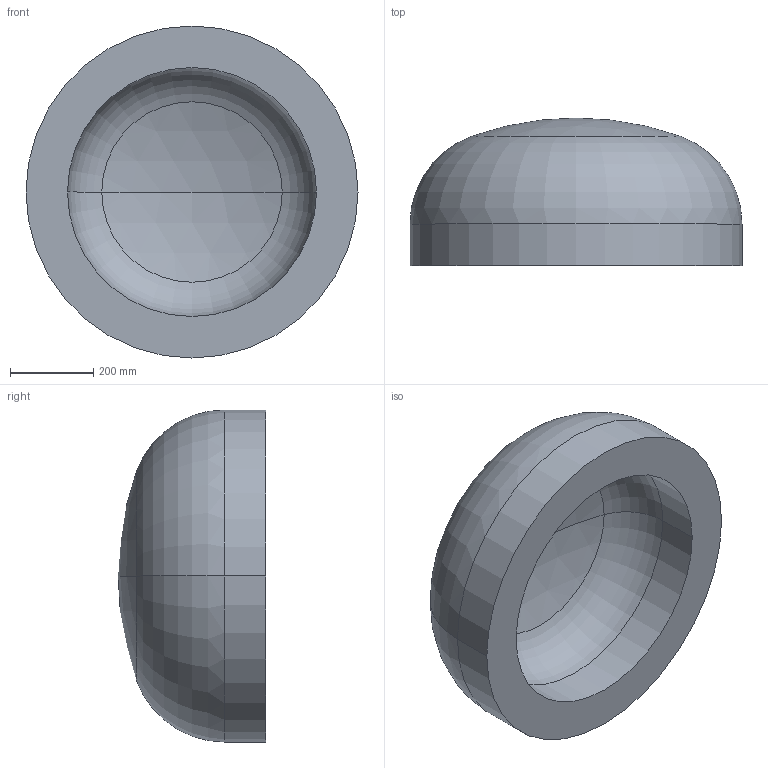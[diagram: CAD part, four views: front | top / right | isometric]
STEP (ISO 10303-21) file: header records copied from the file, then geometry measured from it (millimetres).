
FILE_DESCRIPTION (( 'STEP AP203' ), '1' );
FILE_NAME ('DIN 28013 Korbbogenform_-_Boden DIN 28013 - 800 x 100 - I - s=100.step', '2016-07-01T08:23:42', ( '' ), ( '' ), 'SwSTEP 2.0', 'SolidWorks 2013', '' );
FILE_SCHEMA (( 'CONFIG_CONTROL_DESIGN' ));
Length unit declared in the file: millimetre
Products named in the file (1): DIN 28013 Korbbogenform_-_Boden DIN 28013 - 800 x 100 - I - s=100
Bounding box: 800 x 355.64 x 800 mm (x, y, z)
Volume: 81966455.9 mm3; surface area: 1880184.4 mm2
Topology: 1 solids, 1 shells, 13 faces, 24 edges, 14 vertices
Faces by surface type: torus 4, cylinder 4, sphere 4, plane 1
Entity records: 407 total; most frequent: DIRECTION 72, CARTESIAN_POINT 52, ORIENTED_EDGE 48, AXIS2_PLACEMENT_3D 34, EDGE_CURVE 24, CIRCLE 20, VERTEX_POINT 14, EDGE_LOOP 14
